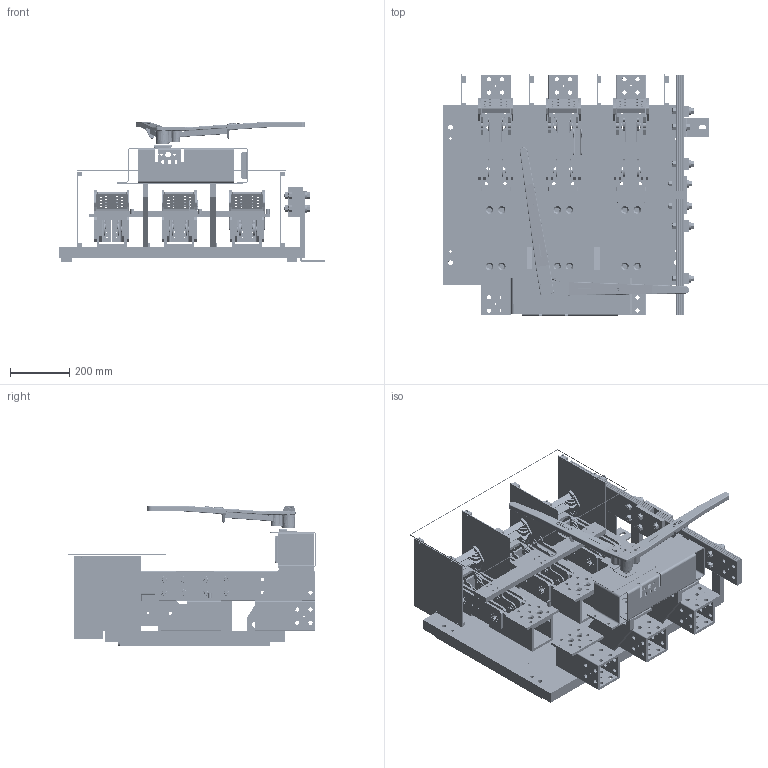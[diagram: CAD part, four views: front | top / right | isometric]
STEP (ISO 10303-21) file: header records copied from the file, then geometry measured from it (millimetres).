
FILE_DESCRIPTION(/* description */ (''),/* implementation_level */ '2;1');
FILE_NAME(/* name */ 'H:\switches\3d-templates\catalog-switches-iges-files\CATALOG-SL4613N.stp',/* time_stamp */ '2022-01-21T14:56:19-06:00',/* author */ ('MKingston'),/* organization */ (''),/* preprocessor_version */ 'ST-DEVELOPER v18.1',/* originating_system */ 'Autodesk Inventor 2022',/* authorisation */ '');
FILE_SCHEMA (('AUTOMOTIVE_DESIGN { 1 0 10303 214 3 1 1 }'));
Products named in the file (48): CATALOG-SL3613; 727; 701; 708-arc-chute-assy; 50-ql; 50-qr; 709; 702; 703; 704; 248-A; CATALOG-4000-blade-assy; 705-b; 705-a; 705-c; 67-j; 69-gc3; 69-gd3; 67-fc3; 68-M; 236-b; 50-g; 255-q; sl-interpole-barrier-assy; 255-p; 178-c; 178-b; 672-a; 820-bw1; 820-fw3; 221-RP,R3; 4000-VL-NEUTRAL-NO-GFI; 676-x; 677-g; 675-h; 678-s; ANSI/ASME B18.2.1 - 1/2-13 UNC - 2, HBI; ANSI/ASME B18.2.1 - 1/2-13 UNC - 2.75, HBI; ASTM F436 - 1/2, CW; ASME B18.21.1 - 1/2. Carbon Steel, ETLWTB(1)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
Assembly tree (146 placements, depth 3):
  CATALOG-SL3613
    727
    701  x3
    708-arc-chute-assy  x3
      50-ql
      50-qr
      709
    702  x3
    703  x3
    704  x6
    248-A  x2
    CATALOG-4000-blade-assy  x3
      705-c
      705-b
      67-j
      705-a
      67-fc3
      69-gc3
      69-gd3
      68-M
    236-b
    50-g
    sl-interpole-barrier-assy  x4
      255-p
      178-b
      178-c
    255-q
    672-a  x2
    820-bw1
    820-fw3
    221-RP,R3
    4000-VL-NEUTRAL-NO-GFI
      676-x  x8
      677-g  x2
      675-h  x4
      678-s
      ASTM F436 - 1/2, CW  x13
      ASME B18.21.1 - 1/2. Carbon Steel, ETLWTB(1)  x13
      ANSI/ASME B18.2.1 - 1/2-13 UNC - 2.5, HBI  x8
      ASME B18.21.1 - 1/2. Carbon Steel, ETLWTA(1)  x13
      ANSI B18.2.2 - 1/2 - 13, HNI  x13
      ANSI/ASME B18.2.1 - 1/2-13 UNC - 2, HBI
      ANSI/ASME B18.2.1 - 1/2-13 UNC - 2.75, HBI  x4
    672-E
    67-ZBA  x3
    223-FE
    223-d-transparent
    223-d-transparent-red
Bounding box: 898.46 x 837.9 x 474.19 mm (x, y, z)
Volume: 34653761.4 mm3; surface area: 6151849.3 mm2
Topology: 191 solids, 192 shells, 6298 faces, 16664 edges, 10902 vertices
Faces by surface type: cylinder 2972, plane 2747, cone 374, bspline 136, torus 69
Full cylindrical faces by diameter (mm): 1.702 x8, 3.302 x14, 3.454 x4, 3.556 x8, 3.569 x14, 3.683 x8, 3.962 x4, 4.343 x84, 4.496 x36, 4.762 x4, 4.775 x8, 4.801 x8, 4.902 x14, 4.915 x16, 4.978 x30, 5.556 x1, 5.563 x6, 5.791 x12, 6.35 x10, 6.528 x55, 7.144 x26, 7.798 x6, 7.938 x6, 8.738 x2, 9.525 x3, 9.601 x2, 9.804 x2, 9.906 x13, 9.931 x8, 10.312 x8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
Entity records: 77055 total; most frequent: CARTESIAN_POINT 19853, DIRECTION 11456, ORIENTED_EDGE 11150, EDGE_CURVE 5583, AXIS2_PLACEMENT_3D 4179, VERTEX_POINT 3646, LINE 3098, VECTOR 3098
